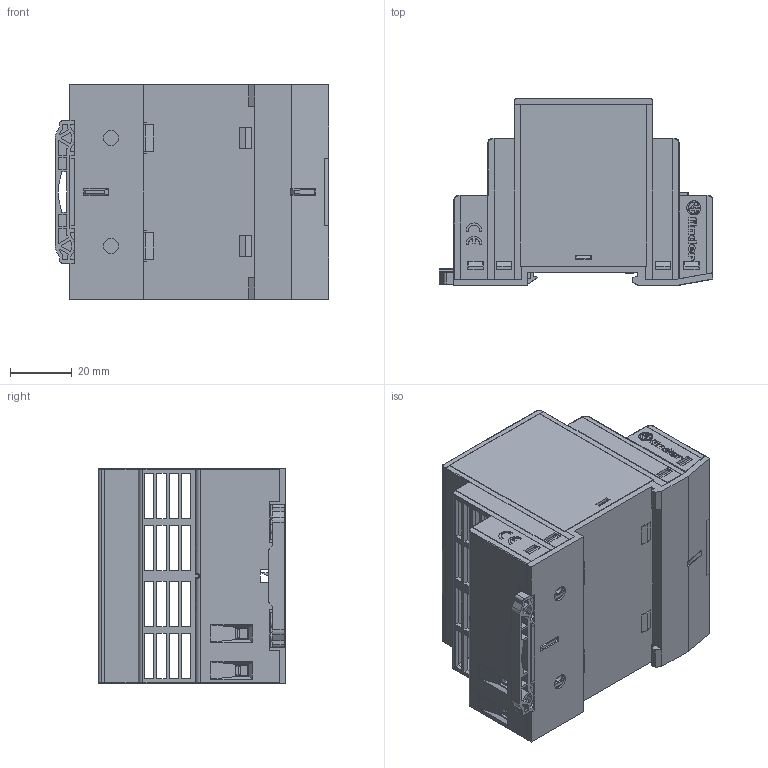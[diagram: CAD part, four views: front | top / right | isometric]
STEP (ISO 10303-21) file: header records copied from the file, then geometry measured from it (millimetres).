
FILE_DESCRIPTION(/* description */ ('Unknown'),/* implementation_level */ '2;1');
FILE_NAME(/* name */ 'Complessivo 78_36',/* time_stamp */ '2015-10-15T14:04:03+02:00',/* author */ ('Unknown'),/* organization */ ('Unknown'),/* preprocessor_version */ 'ST-DEVELOPER v16',/* originating_system */ 'DEX',/* authorisation */ $);
FILE_SCHEMA (('AUTOMOTIVE_DESIGN {1 0 10303 214 3 1 1}'));
Products named in the file (1): Complessivo 78_36
Bounding box: 88.85 x 60.8 x 70 mm (x, y, z)
Surface area: 45109.4 mm2 (no closed solid volume)
Topology: 0 solids, 65 shells, 1756 faces, 6070 edges, 4383 vertices
Faces by surface type: plane 1473, cylinder 193, bspline 38, torus 28, cone 24
Full cylindrical faces by diameter (mm): 3 x4, 4.6 x6, 5 x8
Entity records: 67402 total; most frequent: CARTESIAN_POINT 15510, ORIENTED_EDGE 9992, DIRECTION 9892, EDGE_CURVE 6040, LINE 5240, VECTOR 5240, VERTEX_POINT 4373, AXIS2_PLACEMENT_3D 2326
